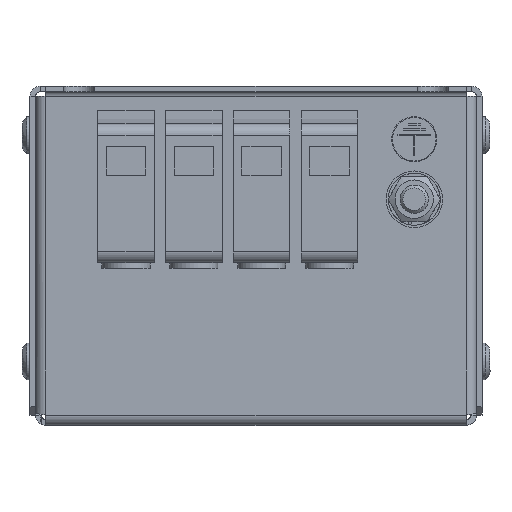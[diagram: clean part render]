
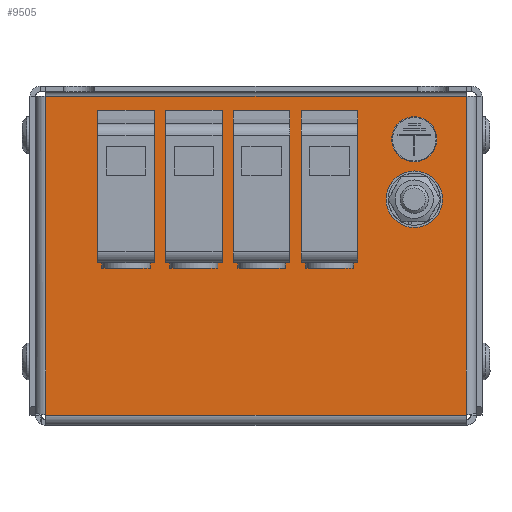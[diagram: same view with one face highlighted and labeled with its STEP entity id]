
A CAD part, left-side view. The second image highlights one B-rep face of the part: STEP entity #9505.
In plain terms, the highlighted planar face has unit normal (-1, 0, 0).
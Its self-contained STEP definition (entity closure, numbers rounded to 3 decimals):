
#169=FACE_BOUND('',#1451,.T.);
#170=FACE_BOUND('',#1452,.T.);
#171=FACE_BOUND('',#1453,.T.);
#172=FACE_BOUND('',#1454,.T.);
#173=FACE_BOUND('',#1455,.T.);
#174=FACE_BOUND('',#1456,.T.);
#349=PLANE('',#10331);
#824=FACE_OUTER_BOUND('',#1450,.T.);
#1450=EDGE_LOOP('',(#7069,#7070,#7071,#7072));
#1451=EDGE_LOOP('',(#7073,#7074,#7075,#7076));
#1452=EDGE_LOOP('',(#7077,#7078,#7079,#7080));
#1453=EDGE_LOOP('',(#7081));
#1454=EDGE_LOOP('',(#7082));
#1455=EDGE_LOOP('',(#7083,#7084,#7085,#7086));
#1456=EDGE_LOOP('',(#7087,#7088,#7089,#7090));
#2113=CIRCLE('',#10332,5.);
#2114=CIRCLE('',#10333,3.99);
#2537=LINE('',#14891,#3396);
#2541=LINE('',#14905,#3400);
#2550=LINE('',#14928,#3409);
#2556=LINE('',#14940,#3415);
#2557=LINE('',#14944,#3416);
#2558=LINE('',#14946,#3417);
#2559=LINE('',#14948,#3418);
#2560=LINE('',#14949,#3419);
#2561=LINE('',#14952,#3420);
#2562=LINE('',#14954,#3421);
#2563=LINE('',#14956,#3422);
#2564=LINE('',#14957,#3423);
#2565=LINE('',#14960,#3424);
#2566=LINE('',#14962,#3425);
#2567=LINE('',#14964,#3426);
#2568=LINE('',#14965,#3427);
#2569=LINE('',#14972,#3428);
#2570=LINE('',#14974,#3429);
#2571=LINE('',#14976,#3430);
#2572=LINE('',#14977,#3431);
#3396=VECTOR('',#11963,10.);
#3400=VECTOR('',#11975,10.);
#3409=VECTOR('',#12000,10.);
#3415=VECTOR('',#12010,10.);
#3416=VECTOR('',#12013,10.);
#3417=VECTOR('',#12014,10.);
#3418=VECTOR('',#12015,10.);
#3419=VECTOR('',#12016,10.);
#3420=VECTOR('',#12017,10.);
#3421=VECTOR('',#12018,10.);
#3422=VECTOR('',#12019,10.);
#3423=VECTOR('',#12020,10.);
#3424=VECTOR('',#12021,10.);
#3425=VECTOR('',#12022,10.);
#3426=VECTOR('',#12023,10.);
#3427=VECTOR('',#12024,10.);
#3428=VECTOR('',#12029,10.);
#3429=VECTOR('',#12030,10.);
#3430=VECTOR('',#12031,10.);
#3431=VECTOR('',#12032,10.);
#4332=VERTEX_POINT('',#14889);
#4333=VERTEX_POINT('',#14890);
#4339=VERTEX_POINT('',#14904);
#4345=VERTEX_POINT('',#14926);
#4350=VERTEX_POINT('',#14942);
#4351=VERTEX_POINT('',#14943);
#4352=VERTEX_POINT('',#14945);
#4353=VERTEX_POINT('',#14947);
#4354=VERTEX_POINT('',#14950);
#4355=VERTEX_POINT('',#14951);
#4356=VERTEX_POINT('',#14953);
#4357=VERTEX_POINT('',#14955);
#4358=VERTEX_POINT('',#14958);
#4359=VERTEX_POINT('',#14959);
#4360=VERTEX_POINT('',#14961);
#4361=VERTEX_POINT('',#14963);
#4362=VERTEX_POINT('',#14966);
#4363=VERTEX_POINT('',#14968);
#4364=VERTEX_POINT('',#14970);
#4365=VERTEX_POINT('',#14971);
#4366=VERTEX_POINT('',#14973);
#4367=VERTEX_POINT('',#14975);
#5312=EDGE_CURVE('',#4332,#4333,#2537,.T.);
#5319=EDGE_CURVE('',#4339,#4332,#2541,.T.);
#5331=EDGE_CURVE('',#4333,#4345,#2550,.T.);
#5337=EDGE_CURVE('',#4345,#4339,#2556,.T.);
#5338=EDGE_CURVE('',#4350,#4351,#2557,.T.);
#5339=EDGE_CURVE('',#4351,#4352,#2558,.T.);
#5340=EDGE_CURVE('',#4352,#4353,#2559,.T.);
#5341=EDGE_CURVE('',#4353,#4350,#2560,.T.);
#5342=EDGE_CURVE('',#4354,#4355,#2561,.T.);
#5343=EDGE_CURVE('',#4355,#4356,#2562,.T.);
#5344=EDGE_CURVE('',#4356,#4357,#2563,.T.);
#5345=EDGE_CURVE('',#4357,#4354,#2564,.T.);
#5346=EDGE_CURVE('',#4358,#4359,#2565,.T.);
#5347=EDGE_CURVE('',#4359,#4360,#2566,.T.);
#5348=EDGE_CURVE('',#4360,#4361,#2567,.T.);
#5349=EDGE_CURVE('',#4361,#4358,#2568,.T.);
#5350=EDGE_CURVE('',#4362,#4362,#2113,.T.);
#5351=EDGE_CURVE('',#4363,#4363,#2114,.T.);
#5352=EDGE_CURVE('',#4364,#4365,#2569,.T.);
#5353=EDGE_CURVE('',#4365,#4366,#2570,.T.);
#5354=EDGE_CURVE('',#4366,#4367,#2571,.T.);
#5355=EDGE_CURVE('',#4367,#4364,#2572,.T.);
#7069=ORIENTED_EDGE('',*,*,#5338,.T.);
#7070=ORIENTED_EDGE('',*,*,#5339,.T.);
#7071=ORIENTED_EDGE('',*,*,#5340,.T.);
#7072=ORIENTED_EDGE('',*,*,#5341,.T.);
#7073=ORIENTED_EDGE('',*,*,#5342,.T.);
#7074=ORIENTED_EDGE('',*,*,#5343,.T.);
#7075=ORIENTED_EDGE('',*,*,#5344,.T.);
#7076=ORIENTED_EDGE('',*,*,#5345,.T.);
#7077=ORIENTED_EDGE('',*,*,#5346,.T.);
#7078=ORIENTED_EDGE('',*,*,#5347,.T.);
#7079=ORIENTED_EDGE('',*,*,#5348,.T.);
#7080=ORIENTED_EDGE('',*,*,#5349,.T.);
#7081=ORIENTED_EDGE('',*,*,#5350,.T.);
#7082=ORIENTED_EDGE('',*,*,#5351,.T.);
#7083=ORIENTED_EDGE('',*,*,#5352,.T.);
#7084=ORIENTED_EDGE('',*,*,#5353,.T.);
#7085=ORIENTED_EDGE('',*,*,#5354,.T.);
#7086=ORIENTED_EDGE('',*,*,#5355,.T.);
#7087=ORIENTED_EDGE('',*,*,#5312,.T.);
#7088=ORIENTED_EDGE('',*,*,#5331,.T.);
#7089=ORIENTED_EDGE('',*,*,#5337,.T.);
#7090=ORIENTED_EDGE('',*,*,#5319,.T.);
#9505=ADVANCED_FACE('',(#824,#169,#170,#171,#172,#173,#174),#349,.F.);
#10331=AXIS2_PLACEMENT_3D('',#14941,#12011,#12012);
#10332=AXIS2_PLACEMENT_3D('',#14967,#12025,#12026);
#10333=AXIS2_PLACEMENT_3D('',#14969,#12027,#12028);
#11963=DIRECTION('',(0.,0.,-1.));
#11975=DIRECTION('',(0.,-1.,0.));
#12000=DIRECTION('',(0.,1.,0.));
#12010=DIRECTION('',(0.,0.,1.));
#12011=DIRECTION('center_axis',(1.,0.,0.));
#12012=DIRECTION('ref_axis',(0.,0.,-1.));
#12013=DIRECTION('',(0.,0.,-1.));
#12014=DIRECTION('',(0.,-1.,0.));
#12015=DIRECTION('',(0.,0.,1.));
#12016=DIRECTION('',(0.,1.,0.));
#12017=DIRECTION('',(0.,0.,-1.));
#12018=DIRECTION('',(0.,1.,0.));
#12019=DIRECTION('',(0.,0.,1.));
#12020=DIRECTION('',(0.,-1.,0.));
#12021=DIRECTION('',(0.,0.,-1.));
#12022=DIRECTION('',(0.,1.,0.));
#12023=DIRECTION('',(0.,0.,1.));
#12024=DIRECTION('',(0.,-1.,0.));
#12025=DIRECTION('center_axis',(1.,0.,0.));
#12026=DIRECTION('ref_axis',(0.,-1.,0.));
#12027=DIRECTION('center_axis',(1.,0.,0.));
#12028=DIRECTION('ref_axis',(0.,0.,-1.));
#12029=DIRECTION('',(0.,0.,-1.));
#12030=DIRECTION('',(0.,1.,0.));
#12031=DIRECTION('',(0.,0.,1.));
#12032=DIRECTION('',(0.,-1.,0.));
#14889=CARTESIAN_POINT('',(-47.5,-6.,55.75));
#14890=CARTESIAN_POINT('',(-47.5,-6.,28.75));
#14891=CARTESIAN_POINT('',(-47.5,-6.,35.453));
#14904=CARTESIAN_POINT('',(-47.5,4.,55.75));
#14905=CARTESIAN_POINT('',(-47.5,-0.5,55.75));
#14926=CARTESIAN_POINT('',(-47.5,4.,28.75));
#14928=CARTESIAN_POINT('',(-47.5,-0.5,28.75));
#14940=CARTESIAN_POINT('',(-47.5,4.,35.453));
#14941=CARTESIAN_POINT('Origin',(-47.5,0.,
30.));
#14942=CARTESIAN_POINT('',(-47.5,37.2,58.2));
#14943=CARTESIAN_POINT('',(-47.5,37.2,1.8));
#14944=CARTESIAN_POINT('',(-47.5,37.2,15.9));
#14945=CARTESIAN_POINT('',(-47.5,-37.2,1.8));
#14946=CARTESIAN_POINT('',(-47.5,0.,1.8));
#14947=CARTESIAN_POINT('',(-47.5,-37.2,58.2));
#14948=CARTESIAN_POINT('',(-47.5,-37.2,44.1));
#14949=CARTESIAN_POINT('',(-47.5,-19.5,58.2));
#14950=CARTESIAN_POINT('',(-47.5,6.,55.75));
#14951=CARTESIAN_POINT('',(-47.5,6.,28.75));
#14952=CARTESIAN_POINT('',(-47.5,6.,35.453));
#14953=CARTESIAN_POINT('',(-47.5,16.,28.75));
#14954=CARTESIAN_POINT('',(-47.5,5.5,28.75));
#14955=CARTESIAN_POINT('',(-47.5,16.,55.75));
#14956=CARTESIAN_POINT('',(-47.5,16.,35.453));
#14957=CARTESIAN_POINT('',(-47.5,5.5,55.75));
#14958=CARTESIAN_POINT('',(-47.5,18.,55.75));
#14959=CARTESIAN_POINT('',(-47.5,18.,28.75));
#14960=CARTESIAN_POINT('',(-47.5,18.,35.453));
#14961=CARTESIAN_POINT('',(-47.5,28.,28.75));
#14962=CARTESIAN_POINT('',(-47.5,11.5,28.75));
#14963=CARTESIAN_POINT('',(-47.5,28.,55.75));
#14964=CARTESIAN_POINT('',(-47.5,28.,35.453));
#14965=CARTESIAN_POINT('',(-47.5,11.5,55.75));
#14966=CARTESIAN_POINT('',(-47.5,-23.,40.));
#14967=CARTESIAN_POINT('Origin',(-47.5,-28.,40.));
#14968=CARTESIAN_POINT('',(-47.5,-27.998,54.596));
#14969=CARTESIAN_POINT('Origin',(-47.5,-27.998,50.606));
#14970=CARTESIAN_POINT('',(-47.5,-18.,55.75));
#14971=CARTESIAN_POINT('',(-47.5,-18.,28.75));
#14972=CARTESIAN_POINT('',(-47.5,-18.,35.453));
#14973=CARTESIAN_POINT('',(-47.5,-8.,28.75));
#14974=CARTESIAN_POINT('',(-47.5,-6.5,28.75));
#14975=CARTESIAN_POINT('',(-47.5,-8.,55.75));
#14976=CARTESIAN_POINT('',(-47.5,-8.,35.453));
#14977=CARTESIAN_POINT('',(-47.5,-6.5,55.75));
